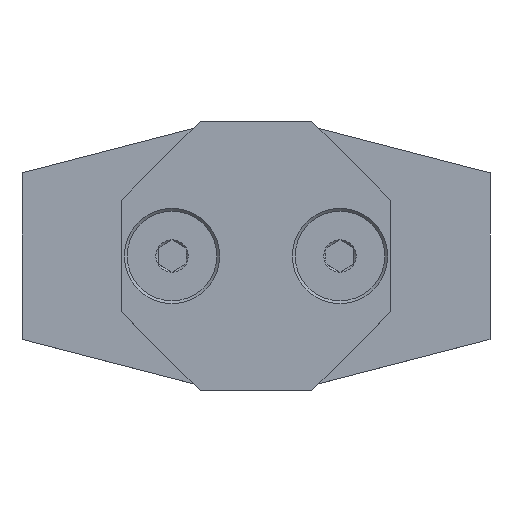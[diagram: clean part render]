
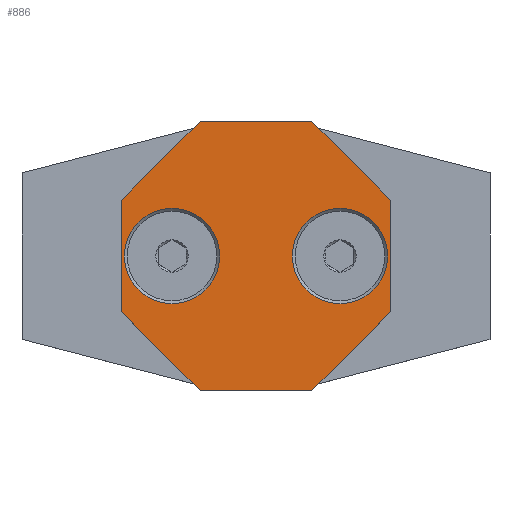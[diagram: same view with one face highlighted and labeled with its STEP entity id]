
A CAD part, top view. The second image highlights one B-rep face of the part: STEP entity #886.
In plain terms, the highlighted planar face has unit normal (0, 0, 1).
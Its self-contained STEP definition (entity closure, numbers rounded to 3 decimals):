
#5 = CIRCLE ( 'NONE', #864, 4.25 ) ;
#8 = VECTOR ( 'NONE', #432, 1000. ) ;
#59 = EDGE_CURVE ( 'NONE', #652, #1770, #584, .T. ) ;
#66 = CARTESIAN_POINT ( 'NONE',  ( 11.75, 0., 0. ) ) ;
#83 = ORIENTED_EDGE ( 'NONE', *, *, #909, .F. ) ;
#198 = EDGE_LOOP ( 'NONE', ( #821 ) ) ;
#221 = VERTEX_POINT ( 'NONE', #1327 ) ;
#230 = DIRECTION ( 'NONE',  ( 1., 0., 0. ) ) ;
#239 = EDGE_CURVE ( 'NONE', #1381, #772, #786, .T. ) ;
#297 = LINE ( 'NONE', #1440, #1347 ) ;
#307 = DIRECTION ( 'NONE',  ( 0., 0., 1. ) ) ;
#327 = LINE ( 'NONE', #885, #1273 ) ;
#353 = CARTESIAN_POINT ( 'NONE',  ( 7.5, 0., 0. ) ) ;
#361 = DIRECTION ( 'NONE',  ( 0., 0., 1. ) ) ;
#386 = LINE ( 'NONE', #1238, #1475 ) ;
#391 = AXIS2_PLACEMENT_3D ( 'NONE', #1602, #1594, #643 ) ;
#403 = DIRECTION ( 'NONE',  ( 0., -1., 0. ) ) ;
#432 = DIRECTION ( 'NONE',  ( -0.707, 0.707, 0. ) ) ;
#437 = PLANE ( 'NONE',  #1744 ) ;
#446 = FACE_BOUND ( 'NONE', #198, .T. ) ;
#447 = CARTESIAN_POINT ( 'NONE',  ( 4.988, 12.043, 0. ) ) ;
#470 = CARTESIAN_POINT ( 'NONE',  ( 12.043, 4.988, 0. ) ) ;
#475 = VERTEX_POINT ( 'NONE', #470 ) ;
#504 = LINE ( 'NONE', #1188, #1271 ) ;
#584 = LINE ( 'NONE', #1297, #1715 ) ;
#610 = DIRECTION ( 'NONE',  ( -1., 0., 0. ) ) ;
#616 = LINE ( 'NONE', #1560, #8 ) ;
#643 = DIRECTION ( 'NONE',  ( 1., 0., 0. ) ) ;
#652 = VERTEX_POINT ( 'NONE', #1387 ) ;
#654 = VECTOR ( 'NONE', #610, 1000. ) ;
#671 = ORIENTED_EDGE ( 'NONE', *, *, #239, .T. ) ;
#719 = CARTESIAN_POINT ( 'NONE',  ( -12.043, 4.988, 0. ) ) ;
#722 = ORIENTED_EDGE ( 'NONE', *, *, #943, .T. ) ;
#772 = VERTEX_POINT ( 'NONE', #992 ) ;
#786 = LINE ( 'NONE', #1726, #654 ) ;
#792 = ORIENTED_EDGE ( 'NONE', *, *, #1543, .T. ) ;
#796 = CARTESIAN_POINT ( 'NONE',  ( 12.043, -4.988, 0. ) ) ;
#808 = ORIENTED_EDGE ( 'NONE', *, *, #1192, .T. ) ;
#810 = EDGE_CURVE ( 'NONE', #772, #1249, #297, .T. ) ;
#821 = ORIENTED_EDGE ( 'NONE', *, *, #989, .F. ) ;
#864 = AXIS2_PLACEMENT_3D ( 'NONE', #353, #361, #230 ) ;
#878 = VERTEX_POINT ( 'NONE', #1437 ) ;
#885 = CARTESIAN_POINT ( 'NONE',  ( -12.043, -4.988, 0. ) ) ;
#886 = ADVANCED_FACE ( 'NONE', ( #446, #1566, #1142 ), #437, .T. ) ;
#909 = EDGE_CURVE ( 'NONE', #1326, #1326, #5, .T. ) ;
#943 = EDGE_CURVE ( 'NONE', #1770, #221, #504, .T. ) ;
#955 = EDGE_LOOP ( 'NONE', ( #83 ) ) ;
#989 = EDGE_CURVE ( 'NONE', #878, #878, #1650, .T. ) ;
#992 = CARTESIAN_POINT ( 'NONE',  ( -4.988, 12.043, 0. ) ) ;
#1029 = VECTOR ( 'NONE', #1662, 1000. ) ;
#1066 = ORIENTED_EDGE ( 'NONE', *, *, #810, .T. ) ;
#1142 = FACE_OUTER_BOUND ( 'NONE', #1523, .T. ) ;
#1155 = DIRECTION ( 'NONE',  ( 1., 0., 0. ) ) ;
#1178 = EDGE_CURVE ( 'NONE', #221, #475, #1786, .T. ) ;
#1188 = CARTESIAN_POINT ( 'NONE',  ( 4.988, -12.043, 0. ) ) ;
#1192 = EDGE_CURVE ( 'NONE', #1249, #1527, #386, .T. ) ;
#1227 = ORIENTED_EDGE ( 'NONE', *, *, #59, .T. ) ;
#1238 = CARTESIAN_POINT ( 'NONE',  ( -12.043, 4.988, 0. ) ) ;
#1249 = VERTEX_POINT ( 'NONE', #719 ) ;
#1268 = DIRECTION ( 'NONE',  ( -0.707, -0.707, 0. ) ) ;
#1271 = VECTOR ( 'NONE', #1740, 1000. ) ;
#1273 = VECTOR ( 'NONE', #1615, 1000. ) ;
#1292 = CARTESIAN_POINT ( 'NONE',  ( -12.043, -4.988, 0. ) ) ;
#1297 = CARTESIAN_POINT ( 'NONE',  ( -4.988, -12.043, 0. ) ) ;
#1326 = VERTEX_POINT ( 'NONE', #66 ) ;
#1327 = CARTESIAN_POINT ( 'NONE',  ( 12.043, -4.988, 0. ) ) ;
#1346 = ORIENTED_EDGE ( 'NONE', *, *, #1178, .T. ) ;
#1347 = VECTOR ( 'NONE', #1268, 1000. ) ;
#1381 = VERTEX_POINT ( 'NONE', #447 ) ;
#1387 = CARTESIAN_POINT ( 'NONE',  ( -4.988, -12.043, 0. ) ) ;
#1429 = CARTESIAN_POINT ( 'NONE',  ( 4.988, -12.043, 0. ) ) ;
#1437 = CARTESIAN_POINT ( 'NONE',  ( -3.25, 0., 0. ) ) ;
#1440 = CARTESIAN_POINT ( 'NONE',  ( -4.988, 12.043, 0. ) ) ;
#1475 = VECTOR ( 'NONE', #403, 1000. ) ;
#1493 = EDGE_CURVE ( 'NONE', #475, #1381, #616, .T. ) ;
#1494 = ORIENTED_EDGE ( 'NONE', *, *, #1493, .T. ) ;
#1523 = EDGE_LOOP ( 'NONE', ( #671, #1066, #808, #792, #1227, #722, #1346, #1494 ) ) ;
#1527 = VERTEX_POINT ( 'NONE', #1292 ) ;
#1543 = EDGE_CURVE ( 'NONE', #1527, #652, #327, .T. ) ;
#1558 = CARTESIAN_POINT ( 'NONE',  ( 0., 0., 0. ) ) ;
#1560 = CARTESIAN_POINT ( 'NONE',  ( 12.043, 4.988, 0. ) ) ;
#1566 = FACE_BOUND ( 'NONE', #955, .T. ) ;
#1594 = DIRECTION ( 'NONE',  ( 0., 0., 1. ) ) ;
#1602 = CARTESIAN_POINT ( 'NONE',  ( -7.5, 0., 0. ) ) ;
#1615 = DIRECTION ( 'NONE',  ( 0.707, -0.707, 0. ) ) ;
#1650 = CIRCLE ( 'NONE', #391, 4.25 ) ;
#1662 = DIRECTION ( 'NONE',  ( 0., 1., 0. ) ) ;
#1680 = DIRECTION ( 'NONE',  ( 1., 0., 0. ) ) ;
#1715 = VECTOR ( 'NONE', #1680, 1000. ) ;
#1726 = CARTESIAN_POINT ( 'NONE',  ( 4.988, 12.043, 0. ) ) ;
#1740 = DIRECTION ( 'NONE',  ( 0.707, 0.707, 0. ) ) ;
#1744 = AXIS2_PLACEMENT_3D ( 'NONE', #1558, #307, #1155 ) ;
#1770 = VERTEX_POINT ( 'NONE', #1429 ) ;
#1786 = LINE ( 'NONE', #796, #1029 ) ;
